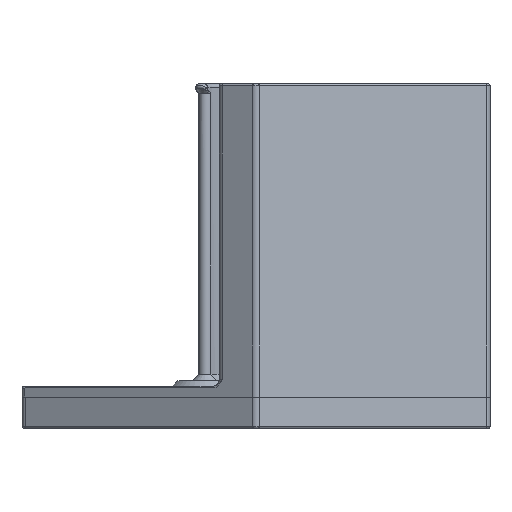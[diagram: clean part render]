
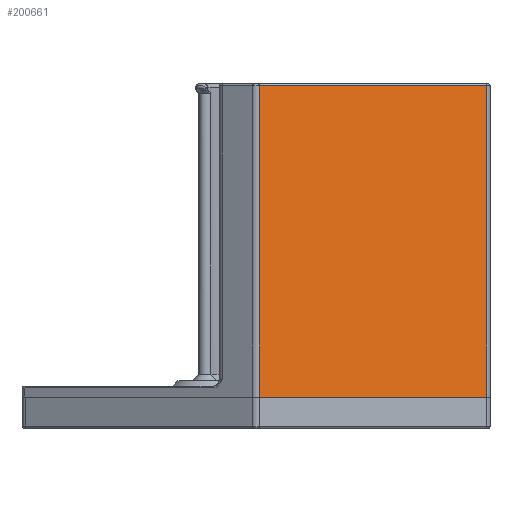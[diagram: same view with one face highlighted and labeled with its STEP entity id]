
A CAD part, left-side view. The second image highlights one B-rep face of the part: STEP entity #200661.
In plain terms, the highlighted planar face has unit normal (-0.866, -0.5, 0).
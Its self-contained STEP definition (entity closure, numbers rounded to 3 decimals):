
#129=PLANE('',#214973);
#15237=FACE_OUTER_BOUND('',#29424,.T.);
#29424=EDGE_LOOP('',(#144017,#144018,#144019,#144020));
#44595=LINE('',#287273,#72702);
#44597=LINE('',#287285,#72704);
#44598=LINE('',#287287,#72705);
#44599=LINE('',#287288,#72706);
#72702=VECTOR('',#229538,10.);
#72704=VECTOR('',#229556,10.);
#72705=VECTOR('',#229557,10.);
#72706=VECTOR('',#229558,10.);
#101139=VERTEX_POINT('',#287122);
#101168=VERTEX_POINT('',#287269);
#101170=VERTEX_POINT('',#287284);
#101171=VERTEX_POINT('',#287286);
#115483=EDGE_CURVE('',#101168,#101139,#44595,.T.);
#115488=EDGE_CURVE('',#101170,#101168,#44597,.T.);
#115489=EDGE_CURVE('',#101170,#101171,#44598,.T.);
#115490=EDGE_CURVE('',#101171,#101139,#44599,.T.);
#144017=ORIENTED_EDGE('',*,*,#115488,.F.);
#144018=ORIENTED_EDGE('',*,*,#115489,.T.);
#144019=ORIENTED_EDGE('',*,*,#115490,.T.);
#144020=ORIENTED_EDGE('',*,*,#115483,.F.);
#200661=ADVANCED_FACE('',(#15237),#129,.T.);
#214973=AXIS2_PLACEMENT_3D('',#287283,#229554,#229555);
#229538=DIRECTION('',(0.5,-0.866,0.));
#229554=DIRECTION('center_axis',(-0.866,-0.5,0.));
#229555=DIRECTION('ref_axis',(-0.5,0.866,0.));
#229556=DIRECTION('',(0.,0.,1.));
#229557=DIRECTION('',(0.5,-0.866,0.));
#229558=DIRECTION('',(0.,0.,1.));
#287122=CARTESIAN_POINT('',(-63.337,-106.753,139.));
#287269=CARTESIAN_POINT('',(-124.104,-1.5,139.));
#287273=CARTESIAN_POINT('',(-78.096,-81.19,139.));
#287283=CARTESIAN_POINT('Origin',(-62.471,-108.253,0.));
#287284=CARTESIAN_POINT('',(-124.104,-1.5,-5.));
#287285=CARTESIAN_POINT('',(-124.104,-1.5,65.));
#287286=CARTESIAN_POINT('',(-63.337,-106.753,-5.));
#287287=CARTESIAN_POINT('',(-93.591,-54.352,-5.));
#287288=CARTESIAN_POINT('',(-63.337,-106.753,65.));
